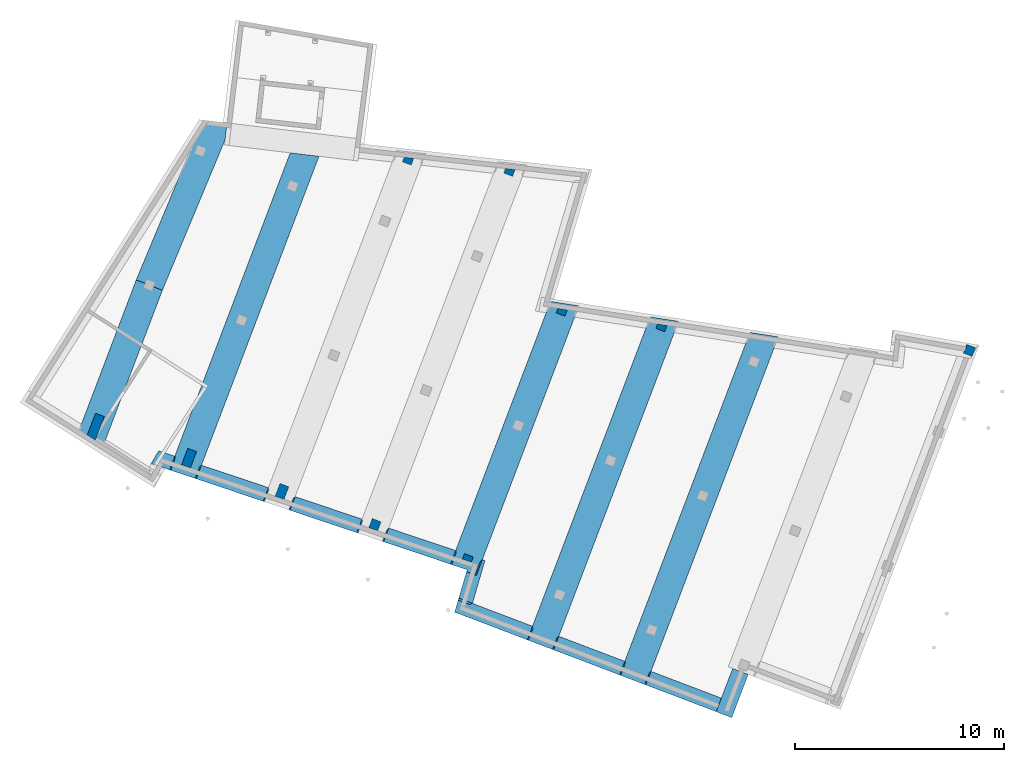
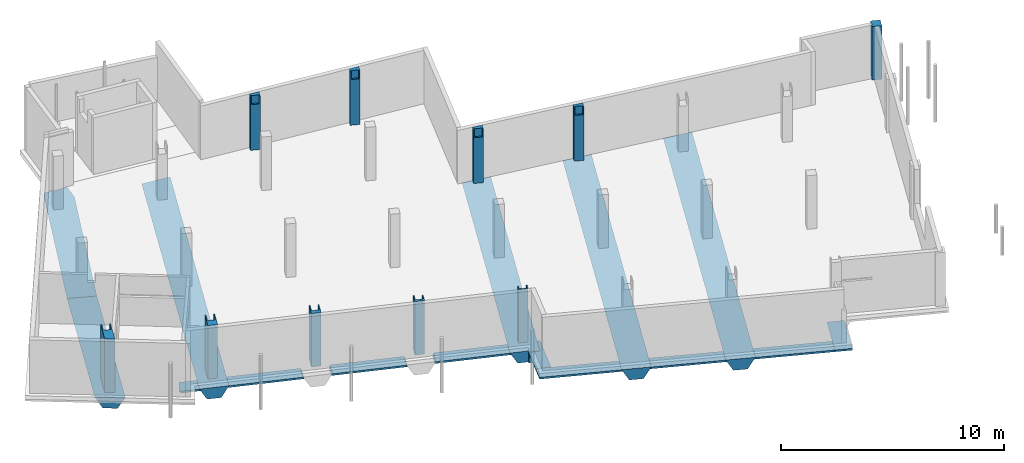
# One storey, part 5 of 11: 10 beams, 10 columns.
"""IFC2X3 building model written with IfcOpenShell, lengths in millimetres."""

from ifc_helpers import new_model, entity, si_unit, converted_unit, derived_unit, direction, frame, origin, place, context, subcontext, project, spatial, polyline, outline, extrude, clip, halfspace, bounded_halfspace, faceted_brep, source, transform, mapped, material, type_object, type_shapes, element, save


model = new_model("IFC2X3")

# Units and contexts
model_context = context("Model", 3, precision=0.01, world=origin(), true_north=direction((6.123233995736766e-17, 1.0)))
body_context = subcontext(model_context, "Body", "Model", "MODEL_VIEW")
ifc_project = project(units=[si_unit("LENGTHUNIT", "METRE", prefix="MILLI"), converted_unit("PLANEANGLEUNIT", "DEGREE", entity("IfcPlaneAngleMeasure", 0.017453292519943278), si_unit("PLANEANGLEUNIT", "RADIAN"), dimensions=[0, 0, 0, 0, 0, 0, 0]), si_unit("AREAUNIT", "SQUARE_METRE"), derived_unit("THERMALTRANSMITTANCEUNIT", [(si_unit("MASSUNIT", "GRAM", prefix="KILO"), 1), (si_unit("THERMODYNAMICTEMPERATUREUNIT", "KELVIN"), -1), (si_unit("TIMEUNIT", "SECOND"), -3)])], contexts=[model_context])

# Site, building, storey
site_placement = place(None, frame((-72937.88054949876, 11621.45624098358, 0.0), z_axis=(0.0, 0.0, 1.0), x_axis=(0.9346418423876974, -0.35559053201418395, 0.0)))
site = spatial("IfcSite", under=ifc_project, at=site_placement, Name="Default", CompositionType="ELEMENT")
building_placement = place(site_placement, origin())
building = spatial("IfcBuilding", under=site, at=building_placement, CompositionType="ELEMENT")
storey_placement = place(building_placement, frame((0.0, 0.0, -3160.0)))
storey = spatial("IfcBuildingStorey", under=building, at=storey_placement, Name="-1 kelder", CompositionType="ELEMENT", Elevation=-3160.0)

# Columns
ifc_material = material(Name="beton_gewapend_ihw")
column_type_1 = type_object("IfcColumnType", Name="450x450mm", PredefinedType="COLUMN", material=ifc_material)
shared_shape_1 = source(origin(), body_context, "Body", "Brep", [
    faceted_brep([(33695.0, 15225.0, -3160.0), (34145.0, 15225.0, -3160.0), (34145.0, 14958.864718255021, -3160.0), (33695.0, 14941.05178106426, -3160.0), (33695.0, 15225.0, -230.0), (33745.0, 15225.0, -230.0), (33745.0, 15225.0, -660.0), (34095.0, 15225.0, -660.0), (34095.0, 15225.0, -230.0), (34145.0, 15225.0, -230.0), (33695.0, 14941.051781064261, -230.0), (34145.0, 14958.864718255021, -230.0), (33745.0, 15000.0, -660.0), (33745.0, 15000.0, -230.0), (34095.0, 15000.0, -660.0), (34095.0, 15000.0, -230.0)], [[[0, 1, 2, 3]], [[1, 0, 4, 5, 6, 7, 8, 9]], [[0, 3, 10, 4]], [[2, 1, 9, 11]], [[3, 2, 11, 10]], [[12, 6, 5, 13]], [[6, 12, 14, 7]], [[7, 14, 15, 8]], [[14, 12, 13, 15]], [[5, 4, 10, 11, 9, 8, 15, 13]]]),
])
type_shapes(column_type_1, [shared_shape_1])
column_1_placement = place(storey_placement, frame((0.0, 0.0, 3160.0)))
element("IfcColumn", 1, at=column_1_placement, inside=storey, type_object=column_type_1, material=ifc_material, Name="28.11_SCO_BetonKolomRechthoek:450x450mm", ObjectType="28.11_SCO_BetonKolomRechthoek:450x450mm", context=body_context, shape_type="MappedRepresentation", body=[
    mapped(shared_shape_1, transform((0.0, 0.0, 0.0), scale=1.0)),
])
column_type_2 = type_object("IfcColumnType", Name="450x650mm", PredefinedType="COLUMN", material=ifc_material)
shared_shape_2 = source(origin(), body_context, "Body", "Brep", [
    faceted_brep([(28965.0, 15225.0, -3160.0), (29415.0, 15225.0, -3160.0), (29415.0, 14771.630956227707, -3160.0), (28965.0, 14753.818019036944, -3160.0), (28965.0, 15225.0, -230.0), (29015.0, 15225.0, -230.0), (29015.0, 15225.0, -660.0), (29365.0, 15225.0, -660.0), (29365.0, 15225.0, -230.0), (29415.0, 15225.0, -230.0), (28965.0, 14753.818019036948, -230.0), (29415.0, 14771.630956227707, -230.0), (29015.0, 14900.0, -660.0), (29015.0, 14900.0, -230.0), (29365.0, 14900.0, -660.0), (29365.0, 14900.0, -230.0)], [[[0, 1, 2, 3]], [[1, 0, 4, 5, 6, 7, 8, 9]], [[0, 3, 10, 4]], [[2, 1, 9, 11]], [[3, 2, 11, 10]], [[12, 6, 5, 13]], [[6, 12, 14, 7]], [[7, 14, 15, 8]], [[14, 12, 13, 15]], [[5, 4, 10, 11, 9, 8, 15, 13]]]),
])
type_shapes(column_type_2, [shared_shape_2])
column_2_placement = place(storey_placement, frame((0.0, 0.0, 3160.0)))
element("IfcColumn", 2, at=column_2_placement, inside=storey, type_object=column_type_2, material=ifc_material, Name="28.11_SCO_BetonKolomRechthoek:450x650mm", ObjectType="28.11_SCO_BetonKolomRechthoek:450x650mm", context=body_context, shape_type="MappedRepresentation", body=[
    mapped(shared_shape_2, transform((0.0, 0.0, 0.0), scale=1.0)),
])
column_type_3 = type_object("IfcColumnType", Name="450x850mm", PredefinedType="COLUMN", material=ifc_material)
shared_shape_3 = source(origin(), body_context, "Body", "Brep", [
    faceted_brep([(24235.0, 15225.0, -3160.0), (24685.0, 15225.0, -3160.0), (24685.0, 14584.397194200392, -3160.0), (24235.0, 14566.58425700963, -3160.0), (24235.0, 15225.0, -230.0), (24285.0, 15225.0, -230.0), (24285.0, 15225.0, -660.0), (24635.0, 15225.0, -660.0), (24635.0, 15225.0, -230.0), (24685.0, 15225.0, -230.0), (24235.0, 14566.584257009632, -230.0), (24685.0, 14584.397194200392, -230.0), (24285.0, 14800.0, -660.0), (24285.0, 14800.0, -230.0), (24635.0, 14800.0, -660.0), (24635.0, 14800.0, -230.0)], [[[0, 1, 2, 3]], [[1, 0, 4, 5, 6, 7, 8, 9]], [[0, 3, 10, 4]], [[2, 1, 9, 11]], [[3, 2, 11, 10]], [[12, 6, 5, 13]], [[6, 12, 14, 7]], [[7, 14, 15, 8]], [[14, 12, 13, 15]], [[5, 4, 10, 11, 9, 8, 15, 13]]]),
])
type_shapes(column_type_3, [shared_shape_3])
column_3_placement = place(storey_placement, frame((0.0, 0.0, 3160.0)))
element("IfcColumn", 3, at=column_3_placement, inside=storey, type_object=column_type_3, material=ifc_material, Name="28.11_SCO_BetonKolomRechthoek:450x850mm", ObjectType="28.11_SCO_BetonKolomRechthoek:450x850mm", context=body_context, shape_type="MappedRepresentation", body=[
    mapped(shared_shape_3, transform((0.0, 0.0, 0.0), scale=1.0)),
])
column_type_4 = type_object("IfcColumnType", Name="450x900mm", PredefinedType="COLUMN", material=ifc_material)
shared_shape_4 = source(origin(), body_context, "Body", "Brep", [
    faceted_brep([(19955.0, 15225.0, -3160.0), (19955.0, 14397.163432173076, -3160.0), (19505.0, 14379.350494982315, -3160.0), (19505.0, 15225.0, -3160.0), (19730.0, 15225.0, -3160.0), (19555.0, 15225.0, -660.0), (19905.0, 15225.0, -660.0), (19905.0, 15225.0, -230.0), (19955.0, 15225.0, -230.0), (19505.0, 15225.0, -2960.0), (19505.0, 15225.0, -230.0), (19555.0, 15225.0, -230.0), (19505.0, 14379.350494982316, -2960.0), (19505.0, 14379.350494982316, -230.0), (19955.0, 14397.163432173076, -230.0), (19555.0, 14775.0, -230.0), (19555.0, 14775.0, -660.0), (19905.0, 14775.0, -660.0), (19905.0, 14775.0, -230.0)], [[[0, 1, 2, 3, 4]], [[5, 6, 7, 8, 0, 4, 3, 9, 10, 11]], [[3, 2, 12, 13, 10, 9]], [[1, 0, 8, 14]], [[2, 1, 14, 13, 12]], [[5, 11, 15, 16]], [[6, 5, 16, 17]], [[7, 6, 17, 18]], [[17, 16, 15, 18]], [[11, 10, 13, 14, 8, 7, 18, 15]]]),
])
type_shapes(column_type_4, [shared_shape_4])
column_4_placement = place(storey_placement, frame((0.0, 0.0, 3160.0)))
element("IfcColumn", 4, at=column_4_placement, inside=storey, type_object=column_type_4, material=ifc_material, Name="28.11_SCO_BetonKolomRechthoek:450x900mm", ObjectType="28.11_SCO_BetonKolomRechthoek:450x900mm", context=body_context, shape_type="MappedRepresentation", body=[
    mapped(shared_shape_4, transform((0.0, 0.0, 0.0), scale=1.0)),
])
column_type_5 = type_object("IfcColumnType", Name="450x1250mm", PredefinedType="COLUMN", material=ifc_material)
shared_shape_5 = source(origin(), body_context, "Body", "Brep", [
    faceted_brep([(14775.0, 15225.0, -3160.0), (15225.0, 15225.0, -3160.0), (15225.0, 14015.388539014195, -3160.0), (14775.0, 14107.087889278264, -3160.0), (14775.0, 15225.0, -2960.0), (14775.0, 15225.0, -230.0), (14825.0, 15225.0, -230.0), (14825.0, 15225.0, -660.0), (15175.0, 15225.0, -660.0), (15175.0, 15225.0, -230.0), (15225.0, 15225.0, -230.0), (15225.0, 15225.0, -2960.0), (14775.0, 14107.087889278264, -2960.0), (14775.0, 14107.087889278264, -230.0), (15225.0, 14885.791701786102, -230.0), (15225.0, 14152.087844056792, -230.0), (15225.0, 14015.388539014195, -230.0), (15225.0, 14015.388539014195, -1250.0), (15225.0, 14015.388539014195, -1400.0), (15225.0, 14015.388539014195, -2960.0), (14825.0, 14775.0, -230.0), (14825.0, 14775.0, -660.0), (15175.0, 14775.0, -660.0), (15175.0, 14775.0, -230.0)], [[[0, 1, 2, 3]], [[1, 0, 4, 5, 6, 7, 8, 9, 10, 11]], [[0, 3, 12, 13, 5, 4]], [[2, 1, 11, 10, 14, 15, 16, 17, 18, 19]], [[7, 6, 20, 21]], [[8, 7, 21, 22]], [[9, 8, 22, 23]], [[6, 5, 13, 16, 15, 14, 10, 9, 23, 20]], [[22, 21, 20, 23]], [[3, 2, 19, 18, 17, 16, 13, 12]]]),
])
type_shapes(column_type_5, [shared_shape_5])
column_5_placement = place(storey_placement, frame((0.0, 0.0, 3160.0)))
element("IfcColumn", 5, at=column_5_placement, inside=storey, type_object=column_type_5, material=ifc_material, Name="28.11_SCO_BetonKolomRechthoek:450x1250mm", ObjectType="28.11_SCO_BetonKolomRechthoek:450x1250mm", context=body_context, shape_type="MappedRepresentation", body=[
    mapped(shared_shape_5, transform((0.0, 0.0, 0.0), scale=1.0)),
])
column_type_6 = type_object("IfcColumnType", Name="450x450mm", PredefinedType="COLUMN", material=ifc_material)
shared_shape_6 = source(origin(), body_context, "Body", "Brep", [
    faceted_brep([(38875.0, 28575.552383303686, -3160.0), (38425.0, 28575.552383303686, -3160.0), (38425.0, 28801.724357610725, -3160.0), (38875.0, 28897.28903984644, -3160.0), (38425.0, 28575.552383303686, -230.0), (38425.0, 28801.724357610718, -230.0), (38875.0, 28575.552383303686, -230.0), (38825.0, 28575.552383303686, -230.0), (38825.0, 28575.552383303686, -660.0), (38475.0, 28575.552383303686, -660.0), (38475.0, 28575.552383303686, -230.0), (38875.0, 28897.28903984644, -230.0), (38475.0, 28667.653255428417, -660.0), (38475.0, 28667.653255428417, -230.0), (38825.0, 28667.653255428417, -660.0), (38825.0, 28667.653255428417, -230.0)], [[[0, 1, 2, 3]], [[2, 1, 4, 5]], [[1, 0, 6, 7, 8, 9, 10, 4]], [[0, 3, 11, 6]], [[3, 2, 5, 11]], [[9, 12, 13, 10]], [[9, 8, 14, 12]], [[14, 8, 7, 15]], [[12, 14, 15, 13]], [[5, 4, 10, 13, 15, 7, 6, 11]]]),
])
type_shapes(column_type_6, [shared_shape_6])
column_6_placement = place(storey_placement, frame((0.0, 0.0, 3160.0)))
element("IfcColumn", 6, at=column_6_placement, inside=storey, type_object=column_type_6, material=ifc_material, Name="28.11_SCO_BetonKolomRechthoek:450x450mm", ObjectType="28.11_SCO_BetonKolomRechthoek:450x450mm", context=body_context, shape_type="MappedRepresentation", body=[
    mapped(shared_shape_6, transform((0.0, 0.0, 0.0), scale=1.0)),
])
column_type_7 = type_object("IfcColumnType", Name="450x450mm", PredefinedType="COLUMN", material=ifc_material)
shared_shape_7 = source(origin(), body_context, "Body", "Brep", [
    faceted_brep([(34145.0, 27572.139580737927, -3160.0), (33695.0, 27572.139580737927, -3160.0), (33695.0, 27797.233364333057, -3160.0), (34145.0, 27892.798046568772, -3160.0), (33695.0, 27572.139580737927, -230.0), (33695.0, 27797.233364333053, -230.0), (34145.0, 27572.139580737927, -230.0), (34095.0, 27572.139580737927, -230.0), (34095.0, 27572.139580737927, -660.0), (33745.0, 27572.139580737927, -660.0), (33745.0, 27572.139580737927, -230.0), (34145.0, 27892.798046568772, -230.0), (33745.0, 27664.24045286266, -660.0), (33745.0, 27664.24045286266, -230.0), (34095.0, 27664.24045286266, -660.0), (34095.0, 27664.24045286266, -230.0)], [[[0, 1, 2, 3]], [[2, 1, 4, 5]], [[1, 0, 6, 7, 8, 9, 10, 4]], [[0, 3, 11, 6]], [[3, 2, 5, 11]], [[9, 12, 13, 10]], [[12, 9, 8, 14]], [[14, 8, 7, 15]], [[12, 14, 15, 13]], [[5, 4, 10, 13, 15, 7, 6, 11]]]),
])
type_shapes(column_type_7, [shared_shape_7])
column_7_placement = place(storey_placement, frame((0.0, 0.0, 3160.0)))
element("IfcColumn", 7, at=column_7_placement, inside=storey, type_object=column_type_7, material=ifc_material, Name="28.11_SCO_BetonKolomRechthoek:450x450mm", ObjectType="28.11_SCO_BetonKolomRechthoek:450x450mm", context=body_context, shape_type="MappedRepresentation", body=[
    mapped(shared_shape_7, transform((0.0, 0.0, 0.0), scale=1.0)),
])
column_type_8 = type_object("IfcColumnType", Name="450x450mm", PredefinedType="COLUMN", material=ifc_material)
shared_shape_8 = source(origin(), body_context, "Body", "Brep", [
    faceted_brep([(29415.0, 32941.257018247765, -3160.0), (28965.0, 32941.257018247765, -3160.0), (28965.0, 33171.76656060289, -3160.0), (29415.0, 33287.98106636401, -3160.0), (28965.0, 32941.257018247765, -230.0), (28965.0, 33171.7665606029, -230.0), (29415.0, 32941.257018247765, -230.0), (29365.0, 32941.257018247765, -230.0), (29365.0, 32941.257018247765, -660.0), (29015.0, 32941.257018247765, -660.0), (29015.0, 32941.257018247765, -230.0), (29415.0, 33287.98106636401, -230.0), (29015.0, 33031.991789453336, -660.0), (29015.0, 33031.991789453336, -230.0), (29365.0, 33031.991789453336, -660.0), (29365.0, 33031.991789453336, -230.0)], [[[0, 1, 2, 3]], [[2, 1, 4, 5]], [[1, 0, 6, 7, 8, 9, 10, 4]], [[0, 3, 11, 6]], [[3, 2, 5, 11]], [[9, 12, 13, 10]], [[12, 9, 8, 14]], [[14, 8, 7, 15]], [[12, 14, 15, 13]], [[5, 4, 10, 13, 15, 7, 6, 11]]]),
])
type_shapes(column_type_8, [shared_shape_8])
column_8_placement = place(storey_placement, frame((0.0, 0.0, 3160.0)))
element("IfcColumn", 8, at=column_8_placement, inside=storey, type_object=column_type_8, material=ifc_material, Name="28.11_SCO_BetonKolomRechthoek:450x450mm", ObjectType="28.11_SCO_BetonKolomRechthoek:450x450mm", context=body_context, shape_type="MappedRepresentation", body=[
    mapped(shared_shape_8, transform((0.0, 0.0, 0.0), scale=1.0)),
])
column_type_9 = type_object("IfcColumnType", Name="450x450mm", PredefinedType="COLUMN", material=ifc_material)
shared_shape_9 = source(origin(), body_context, "Body", "Brep", [
    faceted_brep([(24685.0, 31719.249812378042, -3160.0), (24235.0, 31719.249812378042, -3160.0), (24235.0, 31950.22297782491, -3160.0), (24685.0, 32066.43748358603, -3160.0), (24235.0, 31719.249812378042, -230.0), (24235.0, 31950.222977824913, -230.0), (24685.0, 31719.249812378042, -230.0), (24635.0, 31719.249812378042, -230.0), (24635.0, 31719.249812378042, -660.0), (24285.0, 31719.249812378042, -660.0), (24285.0, 31719.249812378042, -230.0), (24685.0, 32066.437483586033, -230.0), (24285.0, 31809.984583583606, -660.0), (24285.0, 31809.984583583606, -230.0), (24635.0, 31809.984583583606, -660.0), (24635.0, 31809.984583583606, -230.0)], [[[0, 1, 2, 3]], [[2, 1, 4, 5]], [[1, 0, 6, 7, 8, 9, 10, 4]], [[0, 3, 11, 6]], [[3, 2, 5, 11]], [[9, 12, 13, 10]], [[12, 9, 8, 14]], [[14, 8, 7, 15]], [[12, 14, 15, 13]], [[5, 4, 10, 13, 15, 7, 6, 11]]]),
])
type_shapes(column_type_9, [shared_shape_9])
column_9_placement = place(storey_placement, frame((0.0, 0.0, 3160.0)))
element("IfcColumn", 9, at=column_9_placement, inside=storey, type_object=column_type_9, material=ifc_material, Name="28.11_SCO_BetonKolomRechthoek:450x450mm", ObjectType="28.11_SCO_BetonKolomRechthoek:450x450mm", context=body_context, shape_type="MappedRepresentation", body=[
    mapped(shared_shape_9, transform((0.0, 0.0, 0.0), scale=1.0)),
])
column_type_10 = type_object("IfcColumnType", Name="450x450mm", PredefinedType="COLUMN", material=ifc_material)
shared_shape_10 = source(origin(), body_context, "Body", "Brep", [
    faceted_brep([(53065.0, 33156.26920149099, -3160.0), (53065.0, 32706.26920149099, -3160.0), (52950.0, 32706.26920149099, -3160.0), (52730.0, 32706.26920149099, -3160.0), (52615.0, 32706.26920149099, -3160.0), (52615.0, 32808.67654695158, -3160.0), (52670.728229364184, 32819.32192049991, -3160.0), (52629.449546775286, 33035.41465606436, -3160.0), (52615.0, 33032.65446029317, -3160.0), (52615.0, 33156.26920149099, -3160.0), (52615.0, 33156.26920149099, -230.0), (53065.0, 33156.26920149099, -230.0), (53065.0, 33156.26920149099, -430.0), (52615.0, 33032.65446029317, -230.0), (53065.0, 32706.26920149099, -430.0), (53065.0, 32706.26920149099, -230.0), (52950.0, 32706.26920149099, -230.0), (52730.0, 32706.26920149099, -230.0), (52615.0, 32706.26920149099, -230.0), (52615.0, 32808.67654695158, -230.0), (52670.72822936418, 32819.32192049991, -230.0), (52629.449546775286, 33035.41465606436, -230.0)], [[[0, 1, 2, 3, 4, 5, 6, 7, 8, 9]], [[0, 9, 10, 11, 12]], [[9, 8, 13, 10]], [[4, 3, 2, 1, 14, 15, 16, 17, 18]], [[1, 0, 12, 11, 15, 14]], [[6, 5, 19, 20]], [[7, 6, 20, 21]], [[8, 7, 21, 13]], [[5, 4, 18, 19]], [[11, 10, 13, 21, 20, 19, 18, 17, 16, 15]]]),
])
type_shapes(column_type_10, [shared_shape_10])
column_10_placement = place(storey_placement, frame((0.0, 0.0, 3160.0)))
element("IfcColumn", 10, at=column_10_placement, inside=storey, type_object=column_type_10, material=ifc_material, Name="28.11_SCO_BetonKolomRechthoek:450x450mm", ObjectType="28.11_SCO_BetonKolomRechthoek:450x450mm", context=body_context, shape_type="MappedRepresentation", body=[
    mapped(shared_shape_10, transform((0.0, 0.0, 0.0), scale=1.0)),
])

# Beams
beam_type_1 = type_object("IfcBeamType", Name="650x600mm", PredefinedType="BEAM")
beam_1_placement = place(storey_placement, frame((19730.0, 13923.554295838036, -200.0), z_axis=(0.0, 0.0, 1.0), x_axis=(0.0, 1.0, 0.0)))
element("IfcBeam", 11, at=beam_1_placement, inside=storey, type_object=beam_type_1, material=ifc_material, Name="16.12_Beton balk", ObjectType="i.h.w.g. versterkte betonnen strook", context=body_context, shape_type="SweptSolid", body=[
    clip(clip(extrude(outline(polyline([(-325.0, -300.0), (325.0, -300.0), (675.0, 300.0), (-675.0, 300.0), (-325.0, -300.0)])), frame((27.662169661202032, 0.0, -300.0), z_axis=(1.0, 0.0, 0.0), x_axis=(0.0, 1.0, 0.0)), (0.0, 0.0, 1.0), 16890.334875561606), halfspace(frame((83.07054649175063, -724.7562168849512, 16731.73690105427), z_axis=(-0.9992174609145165, -0.03955332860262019, 0.0), x_axis=(0.0, 0.0, -1.0)), False)), halfspace(frame((16927.84439223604, -2432.1787745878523, 200.0), z_axis=(0.822889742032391, 0.20503181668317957, 0.5299192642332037), x_axis=(-0.24176909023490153, 0.9703338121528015, 0.0)), False)),
])
beam_2_placement = place(storey_placement, frame((15000.0, 13740.0, -200.0), z_axis=(0.0, 0.0, 1.0), x_axis=(0.0, 1.0, 0.0)))
element("IfcBeam", 12, at=beam_2_placement, inside=storey, type_object=beam_type_1, material=ifc_material, Name="16.12_Beton balk", ObjectType="i.h.w.g. versterkte betonnen strook", context=body_context, shape_type="SweptSolid", body=[
    clip(clip(extrude(outline(polyline([(-325.0, -300.0), (325.0, -300.0), (675.0, 300.0), (-675.0, 300.0), (-325.0, -300.0)])), frame((86.73682277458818, 0.0, -300.0), z_axis=(1.0, 0.0, 0.0), x_axis=(0.0, 1.0, 0.0)), (0.0, 0.0, 1.0), 8063.807478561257), halfspace(frame((376.7473553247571, 748.1806361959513, -8440.0), z_axis=(-0.9798626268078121, 0.19967281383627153, 0.0), x_axis=(0.0, 0.0, 1.0)), False)), halfspace(frame((8129.455698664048, -675.0, 0.0), z_axis=(0.9998780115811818, -0.015619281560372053, 0.0), x_axis=(-0.015619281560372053, -0.9998780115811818, 0.0)), False)),
])
beam_3_placement = place(storey_placement, frame((15000.0, 21880.0, -200.0), z_axis=(0.0, 0.0, 1.0), x_axis=(0.0312347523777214, 0.9995120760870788, 0.0)))
element("IfcBeam", 13, at=beam_3_placement, inside=storey, type_object=beam_type_1, material=ifc_material, Name="16.12_Beton balk", ObjectType="i.h.w.g. versterkte betonnen strook", context=body_context, shape_type="SweptSolid", body=[
    clip(clip(clip(clip(extrude(outline(polyline([(-325.0, -300.0), (325.0, -300.0), (675.0, 300.0), (-675.0, 300.0), (-325.0, -300.0)])), frame((-10.544301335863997, 0.0, -300.0), z_axis=(1.0, 0.0, 0.0), x_axis=(0.0, 1.0, 0.0)), (0.0, 0.0, 1.0), 8620.000230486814), halfspace(frame((10.544301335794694, -675.0, 0.0), z_axis=(-0.9998780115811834, -0.015619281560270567, 0.0), x_axis=(0.015619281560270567, -0.9998780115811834, 0.0)), False)), halfspace(frame((13287.867876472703, 870.819703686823, -1350.0), z_axis=(0.2719592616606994, -0.9623087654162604, 0.0), x_axis=(-0.9623087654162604, -0.2719592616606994, 0.0)), False)), bounded_halfspace(frame((6985.546535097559, 865.0944386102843, 8360.0), z_axis=(0.1689696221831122, 0.9856212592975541, 0.0), x_axis=(0.0, 0.0, -1.0)), False, frame((-10.544301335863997, 0.0, -300.0), z_axis=(1.0, 0.0, 0.0), x_axis=(0.0, 1.0, 0.0)), polyline([(639.5538045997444, 300.0), (639.5538045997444, 239.23509359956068), (675.0, 300.0), (639.5538045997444, 300.0)]))), bounded_halfspace(frame((8301.153688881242, 639.5538045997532, 8360.0), z_axis=(0.9623087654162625, 0.2719592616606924, 0.0), x_axis=(0.0, 0.0, -1.0)), False, frame((-10.544301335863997, 0.0, -300.0), z_axis=(1.0, 0.0, 0.0), x_axis=(0.0, 1.0, 0.0)), polyline([(639.5538045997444, 239.2350935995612), (639.55380459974, 300.0), (-451.35204062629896, 300.0), (-451.3520406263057, -83.3965017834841), (-325.0, -300.0), (325.0, -300.0), (616.6666666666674, 200.0), (639.5538045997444, 239.2350935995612)]))),
])
beam_4_placement = place(storey_placement, frame((33920.0, 14452.403395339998, -200.0), z_axis=(0.0, 0.0, 1.0), x_axis=(0.0, 1.0, 0.0)))
element("IfcBeam", 14, at=beam_4_placement, inside=storey, type_object=beam_type_1, material=ifc_material, Name="16.12_Beton balk", ObjectType="i.h.w.g. versterkte betonnen strook", context=body_context, shape_type="SweptSolid", body=[
    clip(clip(clip(extrude(outline(polyline([(-95.37558697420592, -431.8894504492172), (599.2466124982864, -431.88945044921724), (-80.97927195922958, 734.212065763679), (-422.8917535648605, 129.56683513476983), (-95.37558697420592, -431.8894504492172)])), frame((0.0, 0.0, -300.0), z_axis=(1.0, 0.0, 0.0), x_axis=(0.0, 0.5038710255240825, 0.8637789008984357)), (0.0, 0.0, 1.0), 13822.203608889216), halfspace(frame((13525.071295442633, 724.1522592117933, 13580.0), z_axis=(0.978185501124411, 0.20773330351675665, 0.0), x_axis=(0.0, 0.0, -1.0)), False)), bounded_halfspace(frame((-82.52232267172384, -177.32872000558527, 13580.0), z_axis=(-0.07852401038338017, 0.9969122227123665, 0.0), x_axis=(0.0, 0.0, -1.0)), False, frame((0.0, 0.0, -300.0), z_axis=(1.0, 0.0, 0.0), x_axis=(0.0, 0.5038710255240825, 0.8637789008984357)), polyline([(176.77701811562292, 292.34413992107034), (-341.4903224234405, -9.978475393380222), (-345.20928517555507, -3.603110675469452), (86.68016527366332, 248.33240208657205), (173.05805536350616, 298.71950463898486), (176.77701811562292, 292.34413992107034)]))), bounded_halfspace(frame((93.70373283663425, -163.44788245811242, 13580.0), z_axis=(-0.9992174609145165, -0.0395533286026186, 0.0), x_axis=(0.0, 0.0, -1.0)), False, frame((0.0, 0.0, -300.0), z_axis=(1.0, 0.0, 0.0), x_axis=(0.0, 0.5038710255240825, 0.8637789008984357)), polyline([(-341.4903224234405, -9.978475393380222), (176.77701811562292, 292.34413992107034), (599.2466124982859, -431.88945044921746), (483.4762459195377, -431.8894504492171), (-95.37558697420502, -431.88945044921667), (-341.4903224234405, -9.978475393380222)]))),
])
beam_5_placement = place(storey_placement, frame((38650.0, 12432.98207855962, -200.0), z_axis=(0.0, 0.0, 1.0), x_axis=(0.0, 1.0, 0.0)))
element("IfcBeam", 15, at=beam_5_placement, inside=storey, type_object=beam_type_1, material=ifc_material, Name="16.12_Beton balk", ObjectType="i.h.w.g. versterkte betonnen strook", context=body_context, shape_type="SweptSolid", body=[
    clip(extrude(outline(polyline([(-325.0, -300.0), (325.0, -300.0), (675.0, 300.0), (-675.0, 300.0), (-325.0, -300.0)])), frame((0.0, 0.0, -300.0), z_axis=(1.0, 0.0, 0.0), x_axis=(0.0, 1.0, 0.0)), (0.0, 0.0, 1.0), 16846.115918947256), halfspace(frame((16539.932293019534, 766.7735552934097, 16660.0), z_axis=(0.9781855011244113, 0.20773330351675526, 0.0), x_axis=(0.0, 0.0, -1.0)), False)),
])
beam_6_placement = place(storey_placement, frame((43380.0, 12432.982078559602, -200.0), z_axis=(0.0, 0.0, 1.0), x_axis=(0.0, 1.0, 0.0)))
element("IfcBeam", 16, at=beam_6_placement, inside=storey, type_object=beam_type_1, material=ifc_material, Name="16.12_Beton balk", ObjectType="i.h.w.g. versterkte betonnen strook", context=body_context, shape_type="SweptSolid", body=[
    clip(extrude(outline(polyline([(-325.0, -300.0), (325.0, -300.0), (675.0, 300.0), (-675.0, 300.0), (-325.0, -300.0)])), frame((0.0, 0.0, -300.0), z_axis=(1.0, 0.0, 0.0), x_axis=(0.0, 1.0, 0.0)), (0.0, 0.0, 1.0), 17850.606912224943), halfspace(frame((17541.11548433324, 782.3495070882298, 17620.0), z_axis=(0.9781855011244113, 0.20773330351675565, 0.0), x_axis=(0.0, 0.0, -1.0)), False)),
])
beam_type_2 = type_object("IfcBeamType", Name="650x600mm", PredefinedType="BEAM")
beam_7_placement = place(storey_placement, frame((48460.0, 12432.982078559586, 0.0), z_axis=(0.0, 0.0, 1.0), x_axis=(0.0, 1.0, 0.0)))
element("IfcBeam", 17, at=beam_7_placement, inside=storey, type_object=beam_type_2, material=ifc_material, Name="16.12_Beton balk", ObjectType="i.h.w.g. versterkte betonnen strook", context=body_context, shape_type="SweptSolid", body=[
    extrude(outline(polyline([(-50.0, -375.0), (50.0, -375.0), (50.0, 325.0), (-50.0, 425.0), (-50.0, -375.0)])), frame((0.0, 375.0, -250.0), z_axis=(1.0, 0.0, 0.0), x_axis=(0.0, 0.0, -1.0)), (0.0, 0.0, 1.0), 2217.017921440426),
])
beam_type_3 = type_object("IfcBeamType", Name="650x600mm", PredefinedType="BEAM", material=ifc_material)
shared_shape_11 = source(origin(), body_context, "Body", "SweptSolid", [
    clip(clip(extrude(outline(polyline([(-275.0, -50.0), (325.0, -50.0), (325.0, 50.0), (-375.0, 50.0), (-275.0, -50.0)])), frame((47760.0, 12757.982078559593, -3410.0), z_axis=(-1.0, 0.0, 0.0), x_axis=(0.0, -1.0, 0.0)), (0.0, 0.0, 1.0), 3763.3333333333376), halfspace(frame((43705.0, 12432.982078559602, -3960.0), z_axis=(-0.863778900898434, 0.0, 0.5038710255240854), x_axis=(0.0, 1.0, 0.0)), False)), halfspace(frame((47460.0, 13485.382078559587, -3160.0), z_axis=(0.7071067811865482, 0.0, 0.707106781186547), x_axis=(0.0, 1.0, 0.0)), False)),
    clip(clip(extrude(outline(polyline([(-275.0, -50.0), (325.0, -50.0), (325.0, 50.0), (-375.0, 50.0), (-275.0, -50.0)])), frame((38033.333333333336, 12757.982078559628, -3410.0), z_axis=(-1.0, 0.0, 0.0), x_axis=(0.0, -1.0, 0.0)), (0.0, 0.0, 1.0), 3838.577510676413), halfspace(frame((34177.114417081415, 13356.950935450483, -3460.0), z_axis=(-0.9969122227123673, -0.07852401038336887, 0.0), x_axis=(0.07852401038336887, -0.9969122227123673, 0.0)), False)), halfspace(frame((37975.0, 12432.98207855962, -3360.0), z_axis=(0.8637789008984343, 0.0, 0.5038710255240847), x_axis=(0.0, 1.0, 0.0)), False)),
    clip(clip(extrude(outline(polyline([(-275.0, -50.0), (325.0, -50.0), (325.0, 50.0), (-375.0, 50.0), (-275.0, -50.0)])), frame((42763.33333333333, 12757.98207855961, -3410.0), z_axis=(-1.0, 0.0, 0.0), x_axis=(0.0, -1.0, 0.0)), (0.0, 0.0, 1.0), 3496.666666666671), halfspace(frame((38975.0, 12432.98207855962, -3960.0), z_axis=(-0.863778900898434, 0.0, 0.5038710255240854), x_axis=(0.0, 1.0, 0.0)), False)), halfspace(frame((42705.0, 12432.982078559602, -3360.0), z_axis=(0.8637789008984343, 0.0, 0.5038710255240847), x_axis=(0.0, 1.0, 0.0)), False)),
])
type_shapes(beam_type_3, [shared_shape_11])
beam_8_placement = place(storey_placement, frame((0.0, 0.0, 3160.0)))
element("IfcBeam", 18, at=beam_8_placement, inside=storey, type_object=beam_type_3, material=ifc_material, Name="16.12_Beton balk", ObjectType="i.h.w.g. versterkte betonnen strook", context=body_context, shape_type="MappedRepresentation", body=[
    mapped(shared_shape_11, transform((0.0, 0.0, 0.0), scale=1.0)),
])
beam_9_placement = place(storey_placement, frame((34083.44788245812, 14546.107128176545, 0.0), z_axis=(0.0, 0.0, 1.0), x_axis=(0.078524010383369, -0.9969122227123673, 0.0)))
element("IfcBeam", 19, at=beam_9_placement, inside=storey, type_object=beam_type_3, material=ifc_material, Name="16.12_Beton balk", ObjectType="i.h.w.g. versterkte betonnen strook", context=body_context, shape_type="SweptSolid", body=[
    clip(clip(clip(clip(extrude(outline(polyline([(-50.0, -325.0), (50.0, -325.0), (50.0, 275.0), (-50.0, 375.0), (-50.0, -325.0)])), frame((-678.4028549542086, 325.0, -250.0), z_axis=(1.0, 0.0, 0.0), x_axis=(0.0, 0.0, -1.0)), (0.0, 0.0, 1.0), 2243.474904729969), halfspace(frame((-601.851858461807, -35.6953658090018, -300.0), z_axis=(-0.7065679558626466, 0.02759934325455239, -0.7071067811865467), x_axis=(0.03903136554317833, 0.9992379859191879, 0.0)), False)), halfspace(frame((2247.792647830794, 13088.059436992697, 0.0), z_axis=(0.7049233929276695, -0.05552486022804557, 0.7071067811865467), x_axis=(-0.07852401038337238, -0.9969122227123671, 0.0)), False)), bounded_halfspace(frame((80.57981335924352, -170.30118468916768, -500.0), z_axis=(-0.9969122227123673, 0.078524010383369, 0.0), x_axis=(0.0, 0.0, 1.0)), False, frame((-678.4028549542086, 325.0, -250.0), z_axis=(1.0, 0.0, 0.0), x_axis=(0.0, 0.0, -1.0)), polyline([(-50.0, 177.61456564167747), (50.0, 119.4613526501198), (50.0, -325.0), (-50.0, -325.0), (-50.0, 177.61456564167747)]))), bounded_halfspace(frame((106.10011673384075, 153.69528769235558, -800.0), z_axis=(-0.06782738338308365, -0.8611117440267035, 0.5038710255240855), x_axis=(-0.9969122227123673, 0.078524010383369, 0.0)), False, frame((-678.4028549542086, 325.0, -250.0), z_axis=(1.0, 0.0, 0.0), x_axis=(0.0, 0.0, -1.0)), polyline([(50.0, 119.46135265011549), (-50.0, 177.6145656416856), (-50.0, 241.57248000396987), (50.0, 175.379397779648), (50.0, 119.46135265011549)]))),
])
beam_type_4 = type_object("IfcBeamType", Name="650x600mm", PredefinedType="BEAM", material=ifc_material)
shared_shape_12 = source(origin(), body_context, "Body", "SweptSolid", [
    clip(clip(extrude(outline(polyline([(-375.0, -50.0), (325.0, -50.0), (325.0, 50.0), (-275.0, 50.0), (-375.0, -50.0)])), frame((18113.324367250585, 14239.195414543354, -3410.0), z_axis=(0.9992174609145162, 0.03955332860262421, 0.0), x_axis=(0.03955332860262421, -0.9992174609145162, 0.0)), (0.0, 0.0, 1.0), 1011.6778088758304), halfspace(frame((18214.75764394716, 13835.253628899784, -3460.0), z_axis=(-0.6981879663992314, 0.11195339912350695, -0.7071067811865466), x_axis=(0.15832601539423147, 0.9873868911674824, 0.0)), False)), halfspace(frame((19055.0, 13923.554295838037, -3360.0), z_axis=(0.8637789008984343, 0.0, 0.5038710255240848), x_axis=(0.0, 1.0, 0.0)), False)),
    clip(clip(extrude(outline(polyline([(-375.0, -50.0), (325.0, -50.0), (325.0, 50.0), (-275.0, 50.0), (-375.0, -50.0)])), frame((25063.811834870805, 14514.32562944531, -3410.0), z_axis=(0.9992174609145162, 0.03955332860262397, 0.0), x_axis=(0.03955332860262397, -0.9992174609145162, 0.0)), (0.0, 0.0, 1.0), 3523.155670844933), halfspace(frame((24785.0, 14105.169633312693, -3960.0), z_axis=(-0.863778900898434, 0.0, 0.5038710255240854), x_axis=(0.0, 1.0, 0.0)), False)), halfspace(frame((28515.0, 14252.40339534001, -3360.0), z_axis=(0.8637789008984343, 0.0, 0.5038710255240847), x_axis=(0.0, 1.0, 0.0)), False)),
    clip(clip(extrude(outline(polyline([(-375.0, -50.0), (325.0, -50.0), (325.0, 50.0), (-275.0, 50.0), (-375.0, -50.0)])), frame((29793.81183487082, 14701.559391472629, -3410.0), z_axis=(0.9992174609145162, 0.039553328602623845, 0.0), x_axis=(0.039553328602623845, -0.9992174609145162, 0.0)), (0.0, 0.0, 1.0), 3523.155670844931), halfspace(frame((29515.0, 14252.40339534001, -3960.0), z_axis=(-0.863778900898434, 0.0, 0.5038710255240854), x_axis=(0.0, 1.0, 0.0)), False)), halfspace(frame((33245.0, 14452.40339534, -3360.0), z_axis=(0.8637789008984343, 0.0, 0.5038710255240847), x_axis=(0.0, 1.0, 0.0)), False)),
    clip(clip(extrude(outline(polyline([(-375.0, -50.0), (325.0, -50.0), (325.0, 50.0), (-275.0, 50.0), (-375.0, -50.0)])), frame((20333.811834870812, 14327.091867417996, -3410.0), z_axis=(0.9992174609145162, 0.039553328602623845, 0.0), x_axis=(0.039553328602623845, -0.9992174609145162, 0.0)), (0.0, 0.0, 1.0), 3523.1556708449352), halfspace(frame((20055.0, 13923.554295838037, -3960.0), z_axis=(-0.863778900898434, 0.0, 0.5038710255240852), x_axis=(0.0, 1.0, 0.0)), False)), halfspace(frame((23785.0, 14105.169633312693, -3360.0), z_axis=(0.8637789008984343, 0.0, 0.5038710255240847), x_axis=(0.0, 1.0, 0.0)), False)),
])
type_shapes(beam_type_4, [shared_shape_12])
beam_10_placement = place(storey_placement, frame((0.0, 0.0, 3160.0)))
element("IfcBeam", 20, at=beam_10_placement, inside=storey, type_object=beam_type_4, material=ifc_material, Name="16.12_Beton balk", ObjectType="i.h.w.g. versterkte betonnen strook", context=body_context, shape_type="MappedRepresentation", body=[
    mapped(shared_shape_12, transform((0.0, 0.0, 0.0), scale=1.0)),
])

save(model, "model.ifc")
